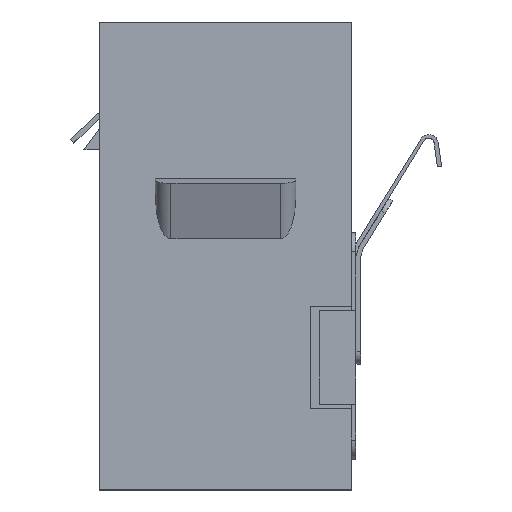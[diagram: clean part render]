
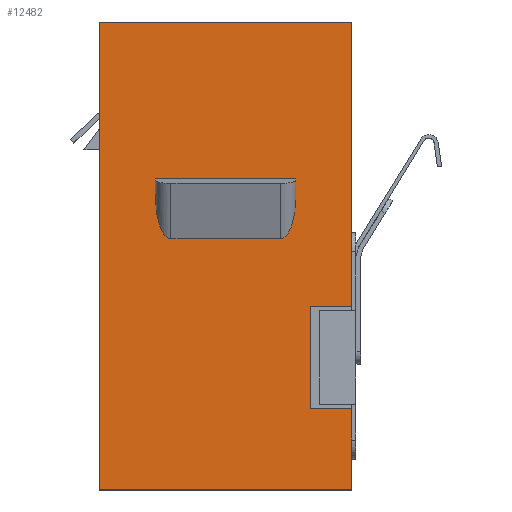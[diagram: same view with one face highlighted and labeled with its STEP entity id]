
A CAD part, top view. The second image highlights one B-rep face of the part: STEP entity #12482.
In plain terms, the highlighted planar face has unit normal (0, 0, 1).
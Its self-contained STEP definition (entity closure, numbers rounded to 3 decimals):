
#697=DIRECTION('',(0.,-1.,0.));
#698=VECTOR('',#697,29.95);
#699=CARTESIAN_POINT('',(-8.075,14.975,0.));
#700=LINE('',#699,#698);
#1254=DIRECTION('',(1.,0.,0.));
#1255=VECTOR('',#1254,2.67);
#1256=CARTESIAN_POINT('',(5.405,-3.216,0.));
#1257=LINE('',#1256,#1255);
#1262=DIRECTION('',(1.,0.,0.));
#1263=VECTOR('',#1262,2.67);
#1264=CARTESIAN_POINT('',(5.405,-9.79,0.));
#1265=LINE('',#1264,#1263);
#1266=DIRECTION('',(0.,-1.,0.));
#1267=VECTOR('',#1266,5.185);
#1268=CARTESIAN_POINT('',(8.075,-9.79,0.));
#1269=LINE('',#1268,#1267);
#1270=DIRECTION('',(-1.,0.,0.));
#1271=VECTOR('',#1270,16.15);
#1272=CARTESIAN_POINT('',(8.075,-14.975,0.));
#1273=LINE('',#1272,#1271);
#1274=DIRECTION('',(0.,-1.,0.));
#1275=VECTOR('',#1274,18.191);
#1276=CARTESIAN_POINT('',(8.075,14.975,0.));
#1277=LINE('',#1276,#1275);
#1278=DIRECTION('',(0.,-1.,0.));
#1279=VECTOR('',#1278,1.173);
#1280=CARTESIAN_POINT('',(-4.5,4.925,0.));
#1281=LINE('',#1280,#1279);
#1282=CARTESIAN_POINT('',(-4.5,3.752,0.));
#1283=CARTESIAN_POINT('',(-4.499,3.606,
0.));
#1284=CARTESIAN_POINT('',(-4.492,3.334,
0.));
#1285=CARTESIAN_POINT('',(-4.459,2.977,
0.));
#1286=CARTESIAN_POINT('',(-4.418,2.68,
0.));
#1287=CARTESIAN_POINT('',(-4.356,2.367,
0.));
#1288=CARTESIAN_POINT('',(-4.287,2.101,0.));
#1289=CARTESIAN_POINT('',(-4.209,1.866,0.));
#1290=CARTESIAN_POINT('',(-4.129,1.672,0.));
#1291=CARTESIAN_POINT('',(-4.021,1.475,
0.));
#1292=CARTESIAN_POINT('',(-3.909,1.324,
0.));
#1293=CARTESIAN_POINT('',(-3.786,1.196,
0.));
#1294=CARTESIAN_POINT('',(-3.667,1.114,
0.));
#1295=CARTESIAN_POINT('',(-3.559,1.095,
0.));
#1296=CARTESIAN_POINT('',(-3.5,1.094,0.));
#1298=DIRECTION('',(-1.,0.,0.));
#1299=VECTOR('',#1298,9.);
#1300=CARTESIAN_POINT('',(4.5,4.925,0.));
#1301=LINE('',#1300,#1299);
#1306=DIRECTION('',(0.,1.,0.));
#1307=VECTOR('',#1306,6.574);
#1308=CARTESIAN_POINT('',(5.405,-9.79,0.));
#1309=LINE('',#1308,#1307);
#1326=DIRECTION('',(-1.,0.,0.));
#1327=VECTOR('',#1326,16.15);
#1328=CARTESIAN_POINT('',(8.075,14.975,0.));
#1329=LINE('',#1328,#1327);
#7270=CARTESIAN_POINT('',(4.5,3.752,0.));
#7271=CARTESIAN_POINT('',(4.5,3.447,0.));
#7272=CARTESIAN_POINT('',(4.462,2.876,0.));
#7273=CARTESIAN_POINT('',(4.336,2.24,0.));
#7274=CARTESIAN_POINT('',(4.181,1.785,0.));
#7275=CARTESIAN_POINT('',(4.03,1.478,0.));
#7276=CARTESIAN_POINT('',(3.867,1.261,0.));
#7277=CARTESIAN_POINT('',(3.69,1.133,0.));
#7278=CARTESIAN_POINT('',(3.576,1.094,0.));
#7279=CARTESIAN_POINT('',(3.5,1.094,0.));
#7281=DIRECTION('',(-1.,0.,0.));
#7282=VECTOR('',#7281,7.);
#7283=CARTESIAN_POINT('',(3.5,1.094,0.));
#7284=LINE('',#7283,#7282);
#7293=DIRECTION('',(0.,-1.,0.));
#7294=VECTOR('',#7293,1.173);
#7295=CARTESIAN_POINT('',(4.5,4.925,0.));
#7296=LINE('',#7295,#7294);
#8855=CARTESIAN_POINT('',(-8.075,-14.975,0.));
#8857=VERTEX_POINT('',#8855);
#8859=CARTESIAN_POINT('',(8.075,-14.975,0.));
#8860=VERTEX_POINT('',#8859);
#8937=CARTESIAN_POINT('',(-8.075,14.975,0.));
#8938=VERTEX_POINT('',#8937);
#9007=CARTESIAN_POINT('',(8.075,-9.79,0.));
#9008=VERTEX_POINT('',#9007);
#9031=CARTESIAN_POINT('',(8.075,-3.216,0.));
#9032=VERTEX_POINT('',#9031);
#9033=CARTESIAN_POINT('',(8.075,14.975,0.));
#9034=VERTEX_POINT('',#9033);
#9168=CARTESIAN_POINT('',(5.405,-9.79,0.));
#9169=VERTEX_POINT('',#9168);
#9170=CARTESIAN_POINT('',(5.405,-3.216,0.));
#9171=VERTEX_POINT('',#9170);
#9172=CARTESIAN_POINT('',(-4.5,4.925,0.));
#9173=CARTESIAN_POINT('',(-4.5,3.752,0.));
#9174=VERTEX_POINT('',#9172);
#9175=VERTEX_POINT('',#9173);
#9176=VERTEX_POINT('',#1296);
#9177=CARTESIAN_POINT('',(3.5,1.094,0.));
#9178=VERTEX_POINT('',#9177);
#9179=VERTEX_POINT('',#7270);
#9180=CARTESIAN_POINT('',(4.5,4.925,0.));
#9181=VERTEX_POINT('',#9180);
#12450=CARTESIAN_POINT('',(-8.075,-14.975,0.));
#12451=DIRECTION('',(0.,0.,1.));
#12452=DIRECTION('',(1.,0.,0.));
#12453=AXIS2_PLACEMENT_3D('',#12450,#12451,#12452);
#12454=PLANE('',#12453);
#12456=ORIENTED_EDGE('',*,*,#12455,.T.);
#12457=ORIENTED_EDGE('',*,*,#11904,.T.);
#12458=ORIENTED_EDGE('',*,*,#11395,.T.);
#12459=ORIENTED_EDGE('',*,*,#11806,.F.);
#12461=ORIENTED_EDGE('',*,*,#12460,.F.);
#12462=ORIENTED_EDGE('',*,*,#12405,.T.);
#12463=ORIENTED_EDGE('',*,*,#12441,.F.);
#12465=ORIENTED_EDGE('',*,*,#12464,.F.);
#12466=EDGE_LOOP('',(#12456,#12457,#12458,#12459,#12461,#12462,#12463,#12465));
#12467=FACE_OUTER_BOUND('',#12466,.F.);
#12469=ORIENTED_EDGE('',*,*,#12468,.T.);
#12471=ORIENTED_EDGE('',*,*,#12470,.T.);
#12473=ORIENTED_EDGE('',*,*,#12472,.F.);
#12475=ORIENTED_EDGE('',*,*,#12474,.F.);
#12477=ORIENTED_EDGE('',*,*,#12476,.F.);
#12479=ORIENTED_EDGE('',*,*,#12478,.T.);
#12480=EDGE_LOOP('',(#12469,#12471,#12473,#12475,#12477,#12479));
#12481=FACE_BOUND('',#12480,.F.);
#12482=ADVANCED_FACE('',(#12467,#12481),#12454,.T.);
#1297=B_SPLINE_CURVE_WITH_KNOTS('',3,(#1282,#1283,#1284,#1285,#1286,#1287,#1288,
#1289,#1290,#1291,#1292,#1293,#1294,#1295,#1296),.UNSPECIFIED.,.F.,.F.,(4,1,1,1,
1,1,1,1,1,1,1,1,4),(0.,0.083,0.167,0.25,
0.333,0.417,0.5,0.583,0.667,
0.75,0.833,0.917,1.),.UNSPECIFIED.);
#7280=B_SPLINE_CURVE_WITH_KNOTS('',3,(#7270,#7271,#7272,#7273,#7274,#7275,#7276,
#7277,#7278,#7279),.UNSPECIFIED.,.F.,.F.,(4,1,1,1,1,1,1,4),(0.,0.25,0.5,
0.625,0.75,0.875,0.938,1.),.UNSPECIFIED.);
#11395=EDGE_CURVE('',#8860,#8857,#1273,.T.);
#11806=EDGE_CURVE('',#8938,#8857,#700,.T.);
#11904=EDGE_CURVE('',#9008,#8860,#1269,.T.);
#12405=EDGE_CURVE('',#9034,#9032,#1277,.T.);
#12441=EDGE_CURVE('',#9171,#9032,#1257,.T.);
#12455=EDGE_CURVE('',#9169,#9008,#1265,.T.);
#12460=EDGE_CURVE('',#9034,#8938,#1329,.T.);
#12464=EDGE_CURVE('',#9169,#9171,#1309,.T.);
#12468=EDGE_CURVE('',#9174,#9175,#1281,.T.);
#12470=EDGE_CURVE('',#9175,#9176,#1297,.T.);
#12472=EDGE_CURVE('',#9178,#9176,#7284,.T.);
#12474=EDGE_CURVE('',#9179,#9178,#7280,.T.);
#12476=EDGE_CURVE('',#9181,#9179,#7296,.T.);
#12478=EDGE_CURVE('',#9181,#9174,#1301,.T.);
